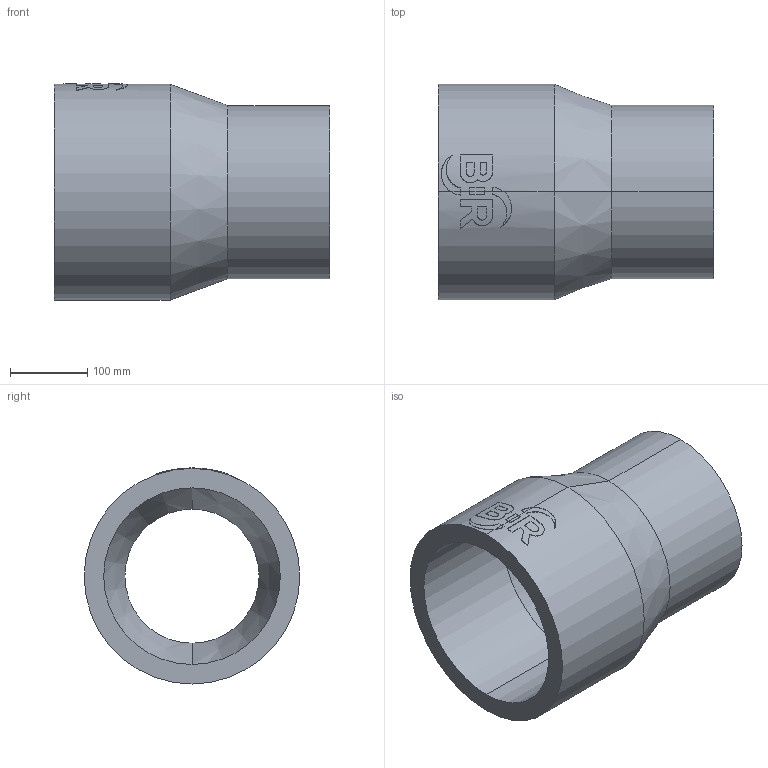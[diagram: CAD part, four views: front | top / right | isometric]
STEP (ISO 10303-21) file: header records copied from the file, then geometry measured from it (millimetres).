
FILE_DESCRIPTION (( 'STEP AP214' ), '1' );
FILE_NAME ('2323222015.STEP', '2018-07-20T10:50:31', ( '' ), ( '' ), 'SwSTEP 2.0', 'SolidWorks 2017', '' );
FILE_SCHEMA (( 'AUTOMOTIVE_DESIGN' ));
Length unit declared in the file: millimetre
Products named in the file (1): 2323222015
Bounding box: 357 x 280 x 280.46 mm (x, y, z)
Volume: 6589015.3 mm3; surface area: 555330.2 mm2
Topology: 1 solids, 1 shells, 63 faces, 160 edges, 104 vertices
Faces by surface type: cylinder 31, plane 28, cone 4
Entity records: 3383 total; most frequent: CARTESIAN_POINT 1174, ORIENTED_EDGE 320, DIRECTION 296, EDGE_CURVE 160, AXIS2_PLACEMENT_3D 112, VERTEX_POINT 104, LINE 72, VECTOR 72
